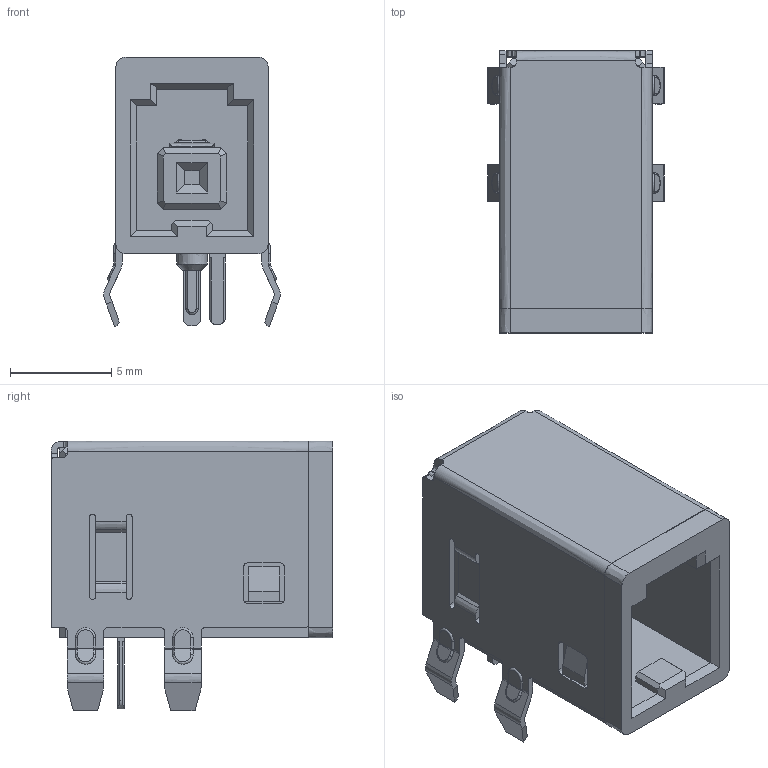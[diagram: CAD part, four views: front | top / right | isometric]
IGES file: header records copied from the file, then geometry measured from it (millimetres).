
Start section:  PTC IGES file: css5001-7m11f_sw150113.igs
Global section: file name: css5001-7m11f_sw150113.igs; native system: Creo Parametric by Parametric Technology Corporation; preprocessor: 2013230; author: tomoki-t; organization: Unknown; date: 20150113.131701; units: millimetre
Bounding box: 8.7 x 13.9 x 13.3 mm (x, y, z)
Volume: 660 mm3; surface area: 1622.7 mm2
Topology: 1 solids, 2 shells, 543 faces, 1468 edges, 927 vertices
Faces by surface type: bspline 543
